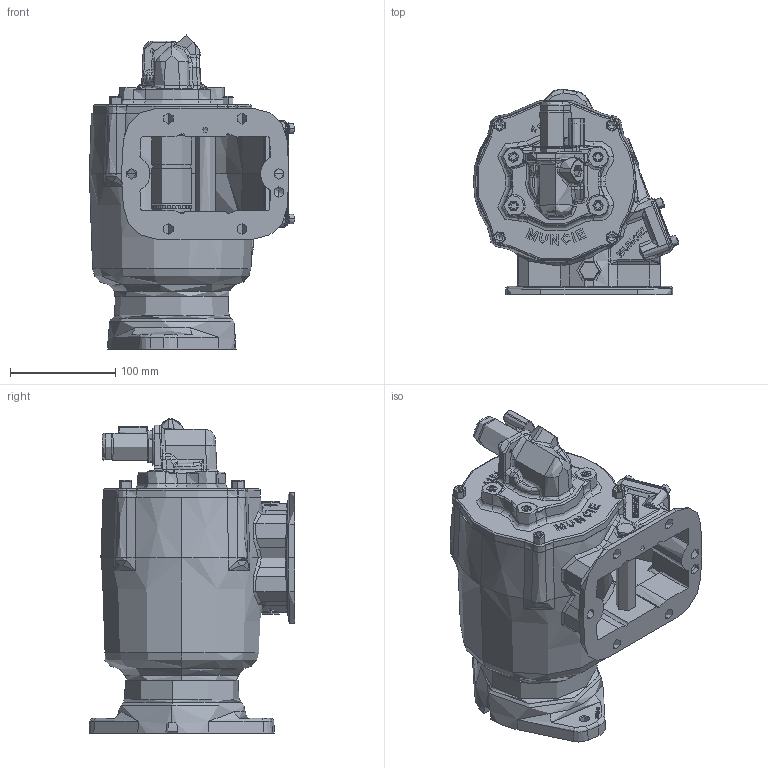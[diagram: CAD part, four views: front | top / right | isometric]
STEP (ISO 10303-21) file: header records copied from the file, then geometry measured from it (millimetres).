
FILE_DESCRIPTION (( 'STEP AP203' ), '1' );
FILE_NAME ('CS6S-XXXXX-S16X.STEP', '2023-05-26T19:07:42', ( '' ), ( '' ), 'SwSTEP 2.0', 'SolidWorks 2021', '' );
FILE_SCHEMA (( 'CONFIG_CONTROL_DESIGN' ));
Length unit declared in the file: inch
Products named in the file (13): 35T40860a; 19T35237; 15T41597; 07T37071; CS6S-XXXXX-S16X; 01t37073a; 06t36893_06T36893; 19T40859; 14TA4819_Config1; 16T41119; 25T21684-1; 19T41118; 14T38981
Assembly tree (23 placements, depth 3):
  CS6S-XXXXX-S16X
    01t37073a
    16T41119
    19T41118  x4
    19T35237  x4
    15T41597
    35T40860a
    25T21684-1  x5
    07T37071
    19T40859  x2
    06t36893_06T36893
    14TA4819_Config1
      14T38981
Bounding box: 194.82 x 195.2 x 297.84 mm (x, y, z)
Topology: 21 solids, 25 shells, 3079 faces, 7900 edges, 4955 vertices
Faces by surface type: bspline 1016, plane 779, cylinder 706, cone 416, torus 158, sphere 4
Entity records: 187911 total; most frequent: CARTESIAN_POINT 124381, ORIENTED_EDGE 14700, DIRECTION 9873, EDGE_CURVE 7352, VERTEX_POINT 4660, AXIS2_PLACEMENT_3D 3678, EDGE_LOOP 3138, B_SPLINE_CURVE_WITH_KNOTS 2943
